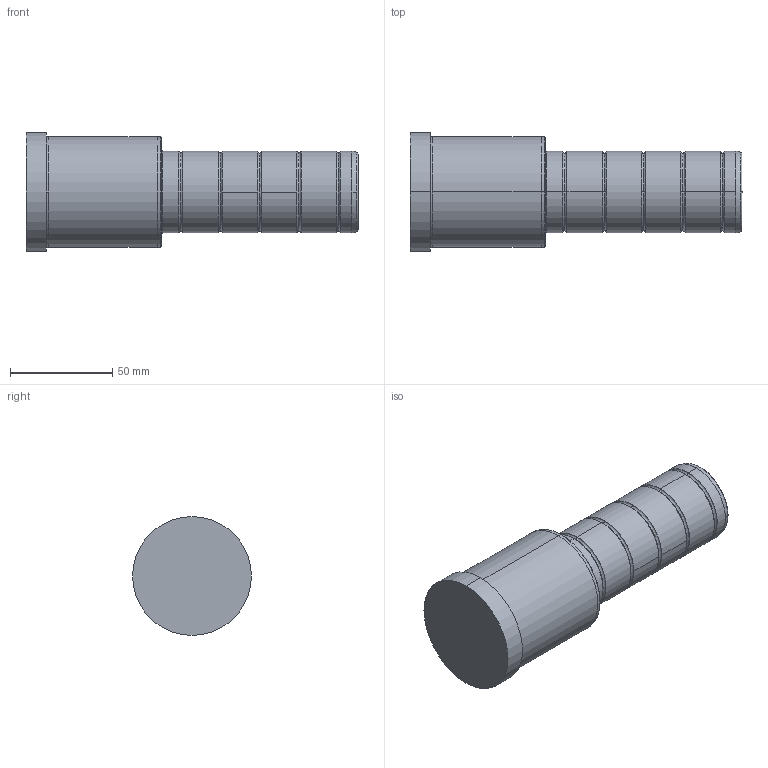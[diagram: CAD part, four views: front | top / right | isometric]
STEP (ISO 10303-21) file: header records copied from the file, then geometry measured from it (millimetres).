
FILE_DESCRIPTION (( 'STEP AP214' ), '1' );
FILE_NAME ('D02_40x66x96.step', '2011-12-27T20:32:52', ( 'Dell' ), ( '' ), 'SwSTEP 2.0', 'SolidWorks 2010', '' );
FILE_SCHEMA (( 'AUTOMOTIVE_DESIGN' ));
Length unit declared in the file: millimetre
Products named in the file (1): D02_40x66x96
Bounding box: 162 x 58 x 58 mm (x, y, z)
Volume: 274246.3 mm3; surface area: 29135 mm2
Topology: 1 solids, 1 shells, 54 faces, 118 edges, 70 vertices
Faces by surface type: bspline 24, cylinder 20, plane 6, cone 4
Entity records: 2206 total; most frequent: CARTESIAN_POINT 861, ORIENTED_EDGE 236, DIRECTION 218, EDGE_CURVE 118, AXIS2_PLACEMENT_3D 97, VERTEX_POINT 70, CIRCLE 66, EDGE_LOOP 58
